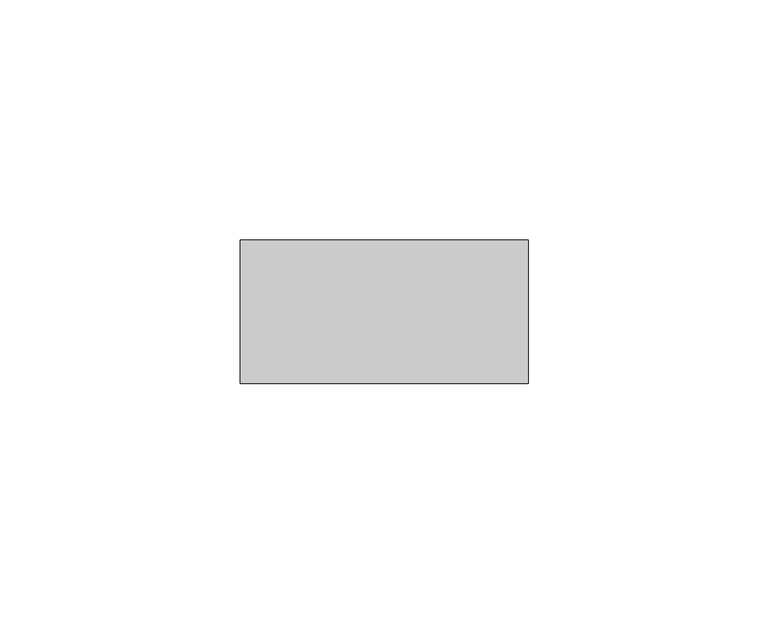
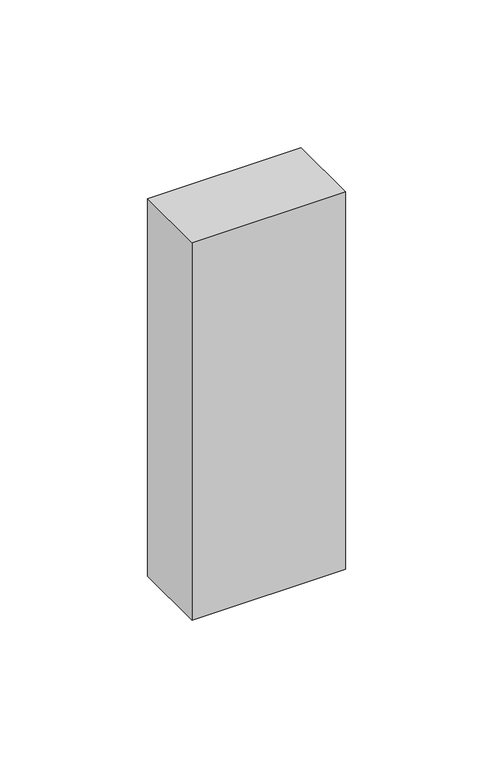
"""IFC4 building model written with IfcOpenShell, lengths in millimetres: member geometry, Прямоугольный импост : Квадрат 30 мм."""

from ifc_helpers import new_model, si_unit, frame, origin, place, context, project, spatial, polyline, outline, extrude, source, transform, mapped, element, save


def member_b74bb5d8(model_context):
    return source(origin(), model_context, "Body", "SweptSolid", [
        extrude(outline(polyline([(30.0, 15.0), (30.0, -15.0), (-30.0, -15.0), (-30.0, 15.0), (30.0, 15.0)])), frame((0.0, 0.0, -155.9225923), z_axis=(0.0, 0.0, 1.0), x_axis=(1.0, 0.0, 0.0)), (0.0, 0.0, 1.0), 155.9225923),
    ])


if __name__ == "__main__":
    model = new_model("IFC4")
    model_context = context("Model", 3, world=origin())
    ifc_project = project(units=[si_unit("LENGTHUNIT", "METRE", prefix="MILLI")], contexts=[model_context])
    site = spatial("IfcSite", under=ifc_project)
    building = spatial("IfcBuilding", under=site)
    placement = place(None, origin())
    member_shape = member_b74bb5d8(model_context)
    element("IfcMember", 1, ObjectType="Прямоугольный импост : Квадрат 30 мм", at=placement, inside=building, context=model_context, shape_type="MappedRepresentation", body=[
        mapped(member_shape, transform((0.0, 0.0, 0.0), x_axis=(1.0, 0.0, 0.0), y_axis=(0.0, 1.0, 0.0), z_axis=(0.0, 0.0, 1.0))),
    ])
    save(model, "model.ifc")
